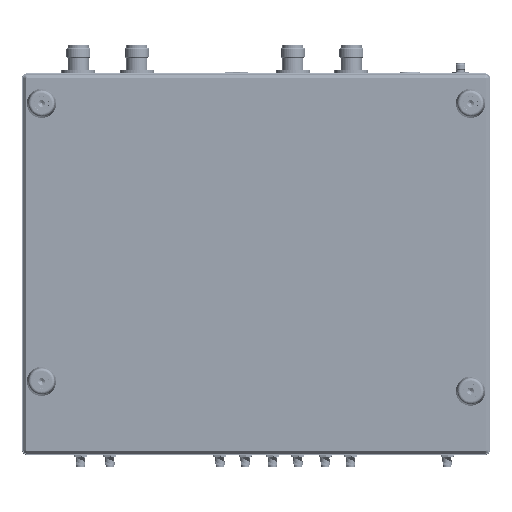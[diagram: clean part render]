
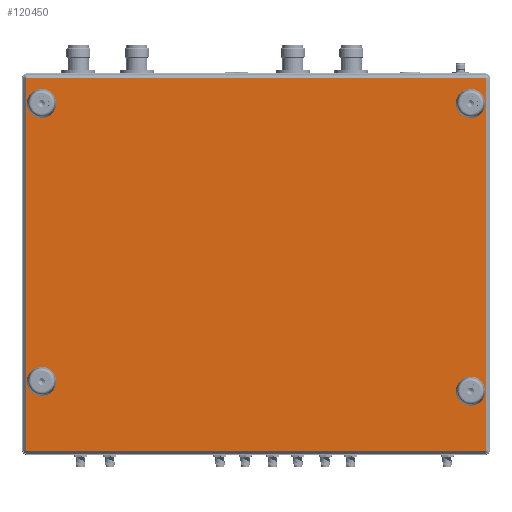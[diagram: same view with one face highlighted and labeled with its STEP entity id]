
A CAD part, front view. The second image highlights one B-rep face of the part: STEP entity #120450.
In plain terms, the highlighted planar face has unit normal (0, -1, 0).
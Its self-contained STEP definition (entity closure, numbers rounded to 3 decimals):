
#8173=FACE_BOUND('',#19786,.T.);
#8174=FACE_BOUND('',#19787,.T.);
#8175=FACE_BOUND('',#19788,.T.);
#8176=FACE_BOUND('',#19789,.T.);
#8919=PLANE('',#127673);
#13081=FACE_OUTER_BOUND('',#19785,.T.);
#19785=EDGE_LOOP('',(#85361,#85362,#85363,#85364,#85365,#85366,#85367,#85368));
#19786=EDGE_LOOP('',(#85369));
#19787=EDGE_LOOP('',(#85370));
#19788=EDGE_LOOP('',(#85371));
#19789=EDGE_LOOP('',(#85372));
#27376=LINE('',#165097,#40108);
#27377=LINE('',#165101,#40109);
#27378=LINE('',#165105,#40110);
#27379=LINE('',#165109,#40111);
#40108=VECTOR('',#136363,39.37);
#40109=VECTOR('',#136366,39.37);
#40110=VECTOR('',#136369,39.37);
#40111=VECTOR('',#136372,39.37);
#52745=CIRCLE('',#127666,0.089);
#52746=CIRCLE('',#127668,0.089);
#52747=CIRCLE('',#127670,0.089);
#52748=CIRCLE('',#127672,0.089);
#52749=CIRCLE('',#127674,0.02);
#52750=CIRCLE('',#127675,0.02);
#52751=CIRCLE('',#127676,0.02);
#52752=CIRCLE('',#127677,0.02);
#55489=VERTEX_POINT('',#165079);
#55490=VERTEX_POINT('',#165083);
#55491=VERTEX_POINT('',#165087);
#55492=VERTEX_POINT('',#165091);
#55493=VERTEX_POINT('',#165095);
#55494=VERTEX_POINT('',#165096);
#55495=VERTEX_POINT('',#165098);
#55496=VERTEX_POINT('',#165100);
#55497=VERTEX_POINT('',#165102);
#55498=VERTEX_POINT('',#165104);
#55499=VERTEX_POINT('',#165106);
#55500=VERTEX_POINT('',#165108);
#67315=EDGE_CURVE('',#55489,#55489,#52745,.T.);
#67317=EDGE_CURVE('',#55490,#55490,#52746,.T.);
#67319=EDGE_CURVE('',#55491,#55491,#52747,.T.);
#67321=EDGE_CURVE('',#55492,#55492,#52748,.T.);
#67322=EDGE_CURVE('',#55493,#55494,#27376,.T.);
#67323=EDGE_CURVE('',#55494,#55495,#52749,.T.);
#67324=EDGE_CURVE('',#55495,#55496,#27377,.T.);
#67325=EDGE_CURVE('',#55496,#55497,#52750,.T.);
#67326=EDGE_CURVE('',#55497,#55498,#27378,.T.);
#67327=EDGE_CURVE('',#55498,#55499,#52751,.T.);
#67328=EDGE_CURVE('',#55499,#55500,#27379,.T.);
#67329=EDGE_CURVE('',#55500,#55493,#52752,.T.);
#85361=ORIENTED_EDGE('',*,*,#67322,.T.);
#85362=ORIENTED_EDGE('',*,*,#67323,.T.);
#85363=ORIENTED_EDGE('',*,*,#67324,.T.);
#85364=ORIENTED_EDGE('',*,*,#67325,.T.);
#85365=ORIENTED_EDGE('',*,*,#67326,.T.);
#85366=ORIENTED_EDGE('',*,*,#67327,.T.);
#85367=ORIENTED_EDGE('',*,*,#67328,.T.);
#85368=ORIENTED_EDGE('',*,*,#67329,.T.);
#85369=ORIENTED_EDGE('',*,*,#67321,.F.);
#85370=ORIENTED_EDGE('',*,*,#67319,.F.);
#85371=ORIENTED_EDGE('',*,*,#67317,.F.);
#85372=ORIENTED_EDGE('',*,*,#67315,.F.);
#120450=ADVANCED_FACE('',(#13081,#8173,#8174,#8175,#8176),#8919,.F.);
#127666=AXIS2_PLACEMENT_3D('',#165081,#136344,#136345);
#127668=AXIS2_PLACEMENT_3D('',#165085,#136349,#136350);
#127670=AXIS2_PLACEMENT_3D('',#165089,#136354,#136355);
#127672=AXIS2_PLACEMENT_3D('',#165093,#136359,#136360);
#127673=AXIS2_PLACEMENT_3D('',#165094,#136361,#136362);
#127674=AXIS2_PLACEMENT_3D('',#165099,#136364,#136365);
#127675=AXIS2_PLACEMENT_3D('',#165103,#136367,#136368);
#127676=AXIS2_PLACEMENT_3D('',#165107,#136370,#136371);
#127677=AXIS2_PLACEMENT_3D('',#165110,#136373,#136374);
#136344=DIRECTION('center_axis',(0.,-1.,0.));
#136345=DIRECTION('ref_axis',(0.,0.,-1.));
#136349=DIRECTION('center_axis',(0.,-1.,0.));
#136350=DIRECTION('ref_axis',(0.,0.,-1.));
#136354=DIRECTION('center_axis',(0.,-1.,0.));
#136355=DIRECTION('ref_axis',(0.,0.,-1.));
#136359=DIRECTION('center_axis',(0.,-1.,0.));
#136360=DIRECTION('ref_axis',(0.,0.,-1.));
#136361=DIRECTION('center_axis',(0.,1.,0.));
#136362=DIRECTION('ref_axis',(0.,0.,1.));
#136363=DIRECTION('',(1.,0.,0.));
#136364=DIRECTION('center_axis',(0.,-1.,0.));
#136365=DIRECTION('ref_axis',(0.,0.,1.));
#136366=DIRECTION('',(0.,0.,1.));
#136367=DIRECTION('center_axis',(0.,-1.,0.));
#136368=DIRECTION('ref_axis',(0.,0.,1.));
#136369=DIRECTION('',(-1.,0.,0.));
#136370=DIRECTION('center_axis',(0.,-1.,0.));
#136371=DIRECTION('ref_axis',(0.,0.,1.));
#136372=DIRECTION('',(0.,0.,-1.));
#136373=DIRECTION('center_axis',(0.,-1.,0.));
#136374=DIRECTION('ref_axis',(0.,0.,1.));
#165079=CARTESIAN_POINT('',(-12.,-0.503,-1.536));
#165081=CARTESIAN_POINT('Origin',(-12.,-0.503,-1.625));
#165083=CARTESIAN_POINT('',(-1.,-0.503,-1.536));
#165085=CARTESIAN_POINT('Origin',(-1.,-0.503,
-1.625));
#165087=CARTESIAN_POINT('',(-1.,-0.503,-8.911));
#165089=CARTESIAN_POINT('Origin',(-1.,-0.503,
-9.));
#165091=CARTESIAN_POINT('',(-12.,-0.503,-8.661));
#165093=CARTESIAN_POINT('Origin',(-12.,-0.503,-8.75));
#165094=CARTESIAN_POINT('Origin',(-6.5,-0.503,-5.748));
#165095=CARTESIAN_POINT('',(-12.375,-0.503,-10.535));
#165096=CARTESIAN_POINT('',(-0.625,-0.503,-10.535));
#165097=CARTESIAN_POINT('',(-0.625,-0.503,-10.535));
#165098=CARTESIAN_POINT('',(-0.605,-0.503,-10.515));
#165099=CARTESIAN_POINT('Origin',(-0.625,-0.503,-10.515));
#165100=CARTESIAN_POINT('',(-0.605,-0.503,-0.98));
#165101=CARTESIAN_POINT('',(-0.605,-0.503,-0.98));
#165102=CARTESIAN_POINT('',(-0.625,-0.503,-0.96));
#165103=CARTESIAN_POINT('Origin',(-0.625,-0.503,-0.98));
#165104=CARTESIAN_POINT('',(-12.375,-0.503,-0.96));
#165105=CARTESIAN_POINT('',(-12.375,-0.503,-0.96));
#165106=CARTESIAN_POINT('',(-12.395,-0.503,-0.98));
#165107=CARTESIAN_POINT('Origin',(-12.375,-0.503,-0.98));
#165108=CARTESIAN_POINT('',(-12.395,-0.503,-10.515));
#165109=CARTESIAN_POINT('',(-12.395,-0.503,-10.515));
#165110=CARTESIAN_POINT('Origin',(-12.375,-0.503,-10.515));
